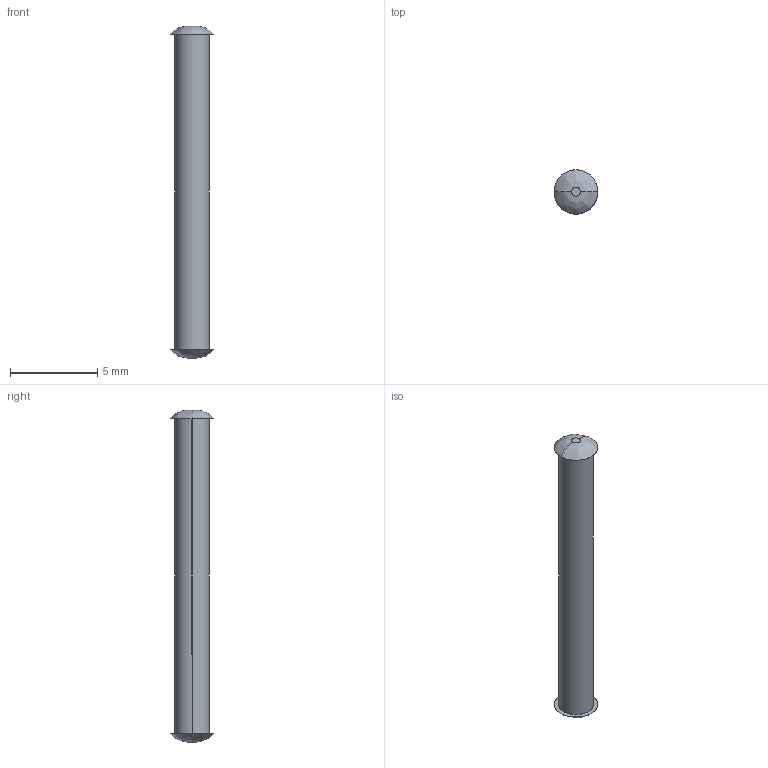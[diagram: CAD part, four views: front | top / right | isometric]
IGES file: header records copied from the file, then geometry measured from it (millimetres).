
Start section: SolidWorks IGES FILE using analytic representation for surfaces
Global section: file name: C:\Documents and Settings\lecoutey\Bureau\GO 17\17.110.00.IGS; native system: SolidWorks 2004 by SolidWorks Corporation; preprocessor: Version 5.3; author: lecoutey; date: 050329.093151; units: millimetre
Bounding box: 2.5 x 2.5 x 19 mm (x, y, z)
Surface area: 128.5 mm2 (no closed solid volume)
Topology: 0 solids, 0 shells, 10 faces, 184 edges, 184 vertices
Faces by surface type: bspline 8, revolution 2
